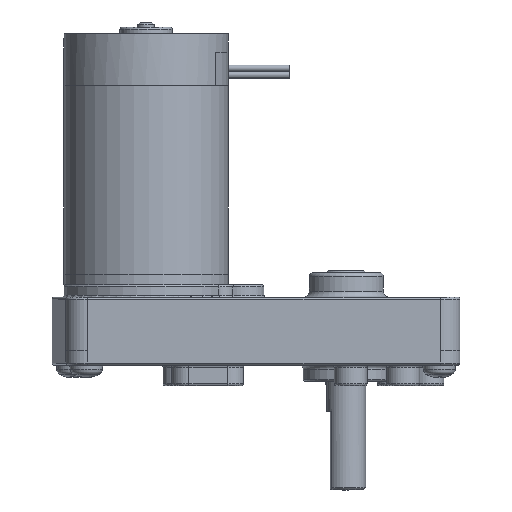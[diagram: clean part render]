
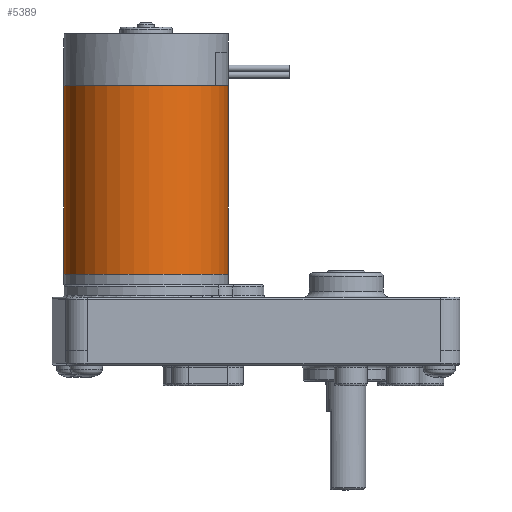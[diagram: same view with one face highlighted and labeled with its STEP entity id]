
A CAD part, left-side view. The second image highlights one B-rep face of the part: STEP entity #5389.
In plain terms, the highlighted cylindrical face has radius 20 mm (diameter 40 mm), a full revolution.
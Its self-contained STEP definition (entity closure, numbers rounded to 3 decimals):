
#954=FACE_BOUND('',#1880,.T.);
#1326=FACE_OUTER_BOUND('',#1879,.T.);
#1879=EDGE_LOOP('',(#4803));
#1880=EDGE_LOOP('',(#4804));
#2333=CIRCLE('',#6159,20.);
#2334=CIRCLE('',#6160,20.);
#2820=VERTEX_POINT('',#10234);
#2821=VERTEX_POINT('',#10236);
#3494=EDGE_CURVE('',#2820,#2820,#2333,.T.);
#3495=EDGE_CURVE('',#2821,#2821,#2334,.T.);
#4803=ORIENTED_EDGE('',*,*,#3494,.T.);
#4804=ORIENTED_EDGE('',*,*,#3495,.F.);
#5037=CYLINDRICAL_SURFACE('',#6158,20.);
#5389=ADVANCED_FACE('',(#1326,#954),#5037,.T.);
#6158=AXIS2_PLACEMENT_3D('',#10233,#7797,#7798);
#6159=AXIS2_PLACEMENT_3D('',#10235,#7799,#7800);
#6160=AXIS2_PLACEMENT_3D('',#10237,#7801,#7802);
#7797=DIRECTION('center_axis',(0.,0.,1.));
#7798=DIRECTION('ref_axis',(-1.,0.,0.));
#7799=DIRECTION('center_axis',(0.,0.,-1.));
#7800=DIRECTION('ref_axis',(-1.,0.,0.));
#7801=DIRECTION('center_axis',(0.,0.,-1.));
#7802=DIRECTION('ref_axis',(-1.,0.,0.));
#10233=CARTESIAN_POINT('Origin',(0.,0.,0.));
#10234=CARTESIAN_POINT('',(20.,0.,45.9));
#10235=CARTESIAN_POINT('Origin',(0.,0.,45.9));
#10236=CARTESIAN_POINT('',(20.,0.,0.));
#10237=CARTESIAN_POINT('Origin',(0.,0.,0.));
